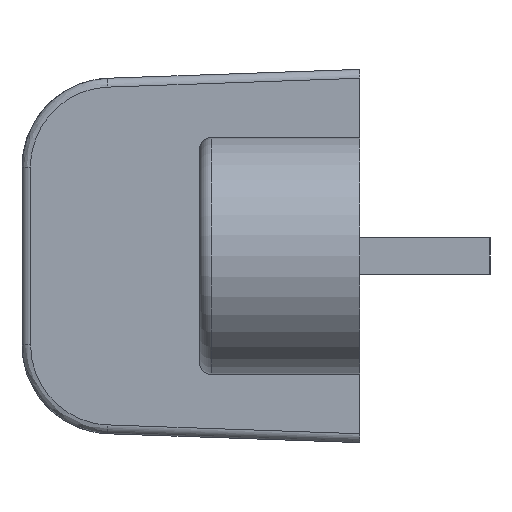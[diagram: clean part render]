
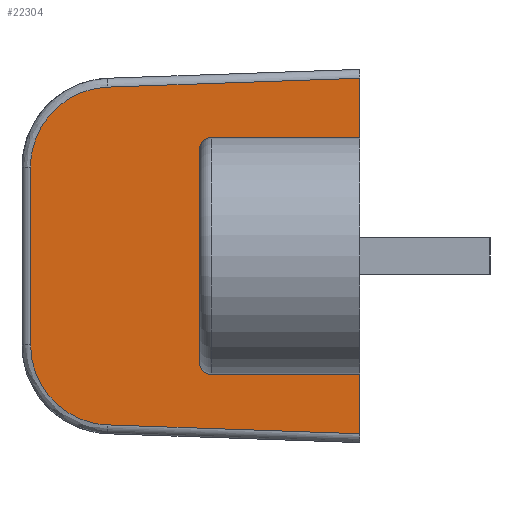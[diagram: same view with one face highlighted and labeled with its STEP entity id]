
A CAD part, left-side view. The second image highlights one B-rep face of the part: STEP entity #22304.
In plain terms, the highlighted planar face has unit normal (-0.999, 0.035, 0).
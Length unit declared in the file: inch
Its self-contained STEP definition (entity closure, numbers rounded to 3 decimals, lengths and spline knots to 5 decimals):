
#21=CARTESIAN_POINT('',(-2.461,0.,-0.30001));
#27=DIRECTION('',(0.,0.,-1.));
#28=VECTOR('',#27,0.10001);
#29=CARTESIAN_POINT('',(-2.461,0.,-0.2));
#30=LINE('',#29,#28);
#44=DIRECTION('',(0.,0.,-1.));
#45=VECTOR('',#44,0.10001);
#46=CARTESIAN_POINT('',(-2.461,0.,0.30001));
#47=LINE('',#46,#45);
#52=CARTESIAN_POINT('',(-2.461,0.,0.30001));
#924=DIRECTION('',(0.,0.,-1.));
#925=VECTOR('',#924,0.36);
#926=CARTESIAN_POINT('',(-2.45153,0.27,0.18));
#927=LINE('',#926,#925);
#7992=DIRECTION('',(0.035,0.999,0.035));
#7993=VECTOR('',#7992,0.42578);
#7994=CARTESIAN_POINT('',(-2.461,0.,-0.30001));
#7995=LINE('',#7994,#7993);
#7996=CARTESIAN_POINT('',(-2.44151,0.55553,
-0.15017));
#7997=CARTESIAN_POINT('',(-2.44151,0.55552,
-0.16014));
#7998=CARTESIAN_POINT('',(-2.44158,0.55338,
-0.17958));
#7999=CARTESIAN_POINT('',(-2.44192,0.54376,
-0.20793));
#8000=CARTESIAN_POINT('',(-2.44247,0.52822,
-0.23337));
#8001=CARTESIAN_POINT('',(-2.44319,0.50749,
-0.25485));
#8002=CARTESIAN_POINT('',(-2.44407,0.48261,-0.27129));
#8003=CARTESIAN_POINT('',(-2.44505,0.45459,
-0.28191));
#8004=CARTESIAN_POINT('',(-2.44573,0.43523,
-0.28474));
#8005=CARTESIAN_POINT('',(-2.44608,0.42526,
-0.28509));
#8007=DIRECTION('',(0.,0.,1.));
#8008=VECTOR('',#8007,0.30034);
#8009=CARTESIAN_POINT('',(-2.44151,0.55553,
-0.15017));
#8010=LINE('',#8009,#8008);
#8011=CARTESIAN_POINT('',(-2.44608,0.42526,
0.28509));
#8012=CARTESIAN_POINT('',(-2.44573,0.43522,
0.28474));
#8013=CARTESIAN_POINT('',(-2.44505,0.45457,
0.28191));
#8014=CARTESIAN_POINT('',(-2.44407,0.48259,
0.2713));
#8015=CARTESIAN_POINT('',(-2.44319,0.50747,
0.25487));
#8016=CARTESIAN_POINT('',(-2.44247,0.5282,
0.23339));
#8017=CARTESIAN_POINT('',(-2.44192,0.54376,
0.20794));
#8018=CARTESIAN_POINT('',(-2.44158,0.55338,
0.17958));
#8019=CARTESIAN_POINT('',(-2.44151,0.55552,
0.16014));
#8020=CARTESIAN_POINT('',(-2.44151,0.55553,
0.15017));
#8022=DIRECTION('',(0.035,0.999,-0.035));
#8023=VECTOR('',#8022,0.42578);
#8024=CARTESIAN_POINT('',(-2.461,0.,0.30001));
#8025=LINE('',#8024,#8023);
#8088=DIRECTION('',(-0.035,-0.999,0.));
#8089=VECTOR('',#8088,0.25015);
#8090=CARTESIAN_POINT('',(-2.45223,0.25,0.2));
#8091=LINE('',#8090,#8089);
#8132=DIRECTION('',(-0.035,-0.999,0.));
#8133=VECTOR('',#8132,0.25015);
#8134=CARTESIAN_POINT('',(-2.45223,0.25,-0.2));
#8135=LINE('',#8134,#8133);
#8140=CARTESIAN_POINT('',(-2.45153,0.27,-0.18));
#8141=CARTESIAN_POINT('',(-2.45153,0.27,-0.18667));
#8142=CARTESIAN_POINT('',(-2.4517,0.26495,
-0.19495));
#8143=CARTESIAN_POINT('',(-2.45199,0.25666,-0.2));
#8144=CARTESIAN_POINT('',(-2.45223,0.25,-0.2));
#8151=CARTESIAN_POINT('',(-2.45153,0.27,0.18));
#8152=CARTESIAN_POINT('',(-2.45153,0.27,0.18667));
#8153=CARTESIAN_POINT('',(-2.4517,0.26495,
0.19495));
#8154=CARTESIAN_POINT('',(-2.45199,0.25666,0.2));
#8155=CARTESIAN_POINT('',(-2.45223,0.25,0.2));
#10593=CARTESIAN_POINT('',(-2.45153,0.27,0.18));
#10594=CARTESIAN_POINT('',(-2.45153,0.27,-0.18));
#10595=VERTEX_POINT('',#10593);
#10596=VERTEX_POINT('',#10594);
#10597=CARTESIAN_POINT('',(-2.45223,0.25,0.2));
#10598=CARTESIAN_POINT('',(-2.461,0.,0.2));
#10599=VERTEX_POINT('',#10597);
#10600=VERTEX_POINT('',#10598);
#10601=CARTESIAN_POINT('',(-2.45223,0.25,-0.2));
#10602=CARTESIAN_POINT('',(-2.461,0.,-0.2));
#10603=VERTEX_POINT('',#10601);
#10604=VERTEX_POINT('',#10602);
#10617=VERTEX_POINT('',#21);
#10621=CARTESIAN_POINT('',(-2.44608,0.42526,
-0.28509));
#10622=VERTEX_POINT('',#10621);
#10639=CARTESIAN_POINT('',(-2.44151,0.55553,
-0.15017));
#10640=CARTESIAN_POINT('',(-2.44151,0.55553,
0.15017));
#10641=VERTEX_POINT('',#10639);
#10642=VERTEX_POINT('',#10640);
#10646=VERTEX_POINT('',#52);
#10647=CARTESIAN_POINT('',(-2.44608,0.42526,
0.28509));
#10648=VERTEX_POINT('',#10647);
#22277=CARTESIAN_POINT('',(-2.451,0.285,0.));
#22278=DIRECTION('',(-0.999,0.035,0.));
#22279=DIRECTION('',(0.,0.,-1.));
#22280=AXIS2_PLACEMENT_3D('',#22277,#22278,#22279);
#22281=PLANE('',#22280);
#22283=ORIENTED_EDGE('',*,*,#22282,.T.);
#22285=ORIENTED_EDGE('',*,*,#22284,.F.);
#22287=ORIENTED_EDGE('',*,*,#22286,.T.);
#22289=ORIENTED_EDGE('',*,*,#22288,.F.);
#22290=ORIENTED_EDGE('',*,*,#22269,.F.);
#22291=ORIENTED_EDGE('',*,*,#10784,.T.);
#22293=ORIENTED_EDGE('',*,*,#22292,.F.);
#22295=ORIENTED_EDGE('',*,*,#22294,.F.);
#22296=ORIENTED_EDGE('',*,*,#11248,.T.);
#22298=ORIENTED_EDGE('',*,*,#22297,.T.);
#22300=ORIENTED_EDGE('',*,*,#22299,.T.);
#22301=ORIENTED_EDGE('',*,*,#10776,.T.);
#22302=EDGE_LOOP('',(#22283,#22285,#22287,#22289,#22290,#22291,#22293,#22295,
#22296,#22298,#22300,#22301));
#22303=FACE_OUTER_BOUND('',#22302,.F.);
#22304=ADVANCED_FACE('',(#22303),#22281,.T.);
#8006=B_SPLINE_CURVE_WITH_KNOTS('',3,(#7996,#7997,#7998,#7999,#8000,#8001,#8002,
#8003,#8004,#8005),.UNSPECIFIED.,.F.,.F.,(4,1,1,1,1,1,1,4),(0.,
0.14286,0.28571,0.42857,0.57143,
0.71429,0.85714,1.),.UNSPECIFIED.);
#8021=B_SPLINE_CURVE_WITH_KNOTS('',3,(#8011,#8012,#8013,#8014,#8015,#8016,#8017,
#8018,#8019,#8020),.UNSPECIFIED.,.F.,.F.,(4,1,1,1,1,1,1,4),(0.,
0.14286,0.28571,0.42857,0.57143,
0.71429,0.85714,1.),.UNSPECIFIED.);
#8145=B_SPLINE_CURVE_WITH_KNOTS('',3,(#8140,#8141,#8142,#8143,#8144),
.UNSPECIFIED.,.F.,.F.,(4,1,4),(0.,0.5,1.),.UNSPECIFIED.);
#8156=B_SPLINE_CURVE_WITH_KNOTS('',3,(#8151,#8152,#8153,#8154,#8155),
.UNSPECIFIED.,.F.,.F.,(4,1,4),(0.,0.5,1.),.UNSPECIFIED.);
#10776=EDGE_CURVE('',#10604,#10617,#30,.T.);
#10784=EDGE_CURVE('',#10646,#10600,#47,.T.);
#11248=EDGE_CURVE('',#10595,#10596,#927,.T.);
#22269=EDGE_CURVE('',#10646,#10648,#8025,.T.);
#22282=EDGE_CURVE('',#10617,#10622,#7995,.T.);
#22284=EDGE_CURVE('',#10641,#10622,#8006,.T.);
#22286=EDGE_CURVE('',#10641,#10642,#8010,.T.);
#22288=EDGE_CURVE('',#10648,#10642,#8021,.T.);
#22292=EDGE_CURVE('',#10599,#10600,#8091,.T.);
#22294=EDGE_CURVE('',#10595,#10599,#8156,.T.);
#22297=EDGE_CURVE('',#10596,#10603,#8145,.T.);
#22299=EDGE_CURVE('',#10603,#10604,#8135,.T.);
